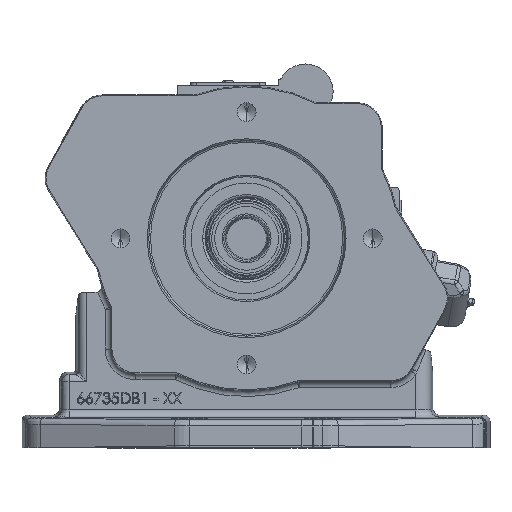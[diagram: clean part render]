
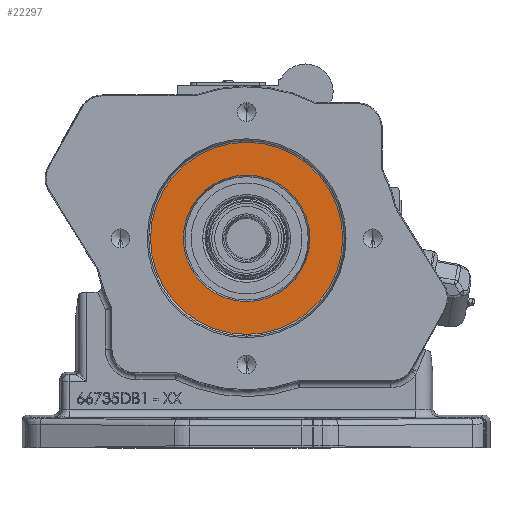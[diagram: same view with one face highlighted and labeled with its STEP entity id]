
A CAD part, top view. The second image highlights one B-rep face of the part: STEP entity #22297.
In plain terms, the highlighted planar face has unit normal (0, 0, 1) as drawn and (0, 0, -1) by its records, which use the part's own axes.
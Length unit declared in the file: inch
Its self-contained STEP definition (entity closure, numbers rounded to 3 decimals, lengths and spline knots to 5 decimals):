
#4095 = DIRECTION ( 'NONE',  ( 0., 0., -1. ) ) ;
#4808 = ORIENTED_EDGE ( 'NONE', *, *, #8241, .T. ) ;
#8241 = EDGE_CURVE ( 'NONE', #156380, #69478, #68675, .T. ) ;
#13184 = CARTESIAN_POINT ( 'NONE',  ( 3.4729, -3.5484, 0.0821 ) ) ;
#22297 = ADVANCED_FACE ( 'NONE', ( #157884, #93367 ), #145142, .F. ) ;
#32101 = DIRECTION ( 'NONE',  ( 1., 0., 0. ) ) ;
#33883 = VERTEX_POINT ( 'NONE', #135380 ) ;
#37213 = CARTESIAN_POINT ( 'NONE',  ( 5.0679, -3.5484, 0.0821 ) ) ;
#40030 = CARTESIAN_POINT ( 'NONE',  ( 4.52369, -3.5484, 0.0821 ) ) ;
#41253 = DIRECTION ( 'NONE',  ( 1., 0., 0. ) ) ;
#41991 = AXIS2_PLACEMENT_3D ( 'NONE', #46494, #4095, #32101 ) ;
#46494 = CARTESIAN_POINT ( 'NONE',  ( 3.4729, -3.5484, 0.0821 ) ) ;
#47942 = AXIS2_PLACEMENT_3D ( 'NONE', #126257, #83890, #99113 ) ;
#48431 = VERTEX_POINT ( 'NONE', #37213 ) ;
#58750 = CIRCLE ( 'NONE', #47942, 1.05079 ) ;
#63529 = EDGE_CURVE ( 'NONE', #33883, #48431, #90869, .T. ) ;
#68675 = CIRCLE ( 'NONE', #109670, 1.05079 ) ;
#69478 = VERTEX_POINT ( 'NONE', #40030 ) ;
#79474 = DIRECTION ( 'NONE',  ( 0., 0., 1. ) ) ;
#83270 = AXIS2_PLACEMENT_3D ( 'NONE', #132416, #79474, #41253 ) ;
#83890 = DIRECTION ( 'NONE',  ( 0., 0., 1. ) ) ;
#84382 = ORIENTED_EDGE ( 'NONE', *, *, #63529, .T. ) ;
#87312 = CARTESIAN_POINT ( 'NONE',  ( 3.4729, -3.5484, 0.0821 ) ) ;
#90467 = DIRECTION ( 'NONE',  ( 0., 0., 1. ) ) ;
#90869 = CIRCLE ( 'NONE', #41991, 1.595 ) ;
#93340 = ORIENTED_EDGE ( 'NONE', *, *, #149993, .T. ) ;
#93367 = FACE_OUTER_BOUND ( 'NONE', #143170, .T. ) ;
#93726 = EDGE_CURVE ( 'NONE', #69478, #156380, #58750, .T. ) ;
#99113 = DIRECTION ( 'NONE',  ( 1., 0., 0. ) ) ;
#109670 = AXIS2_PLACEMENT_3D ( 'NONE', #13184, #90467, #127834 ) ;
#112067 = CARTESIAN_POINT ( 'NONE',  ( 2.42211, -3.5484, 0.0821 ) ) ;
#125465 = EDGE_LOOP ( 'NONE', ( #4808, #159565 ) ) ;
#126257 = CARTESIAN_POINT ( 'NONE',  ( 3.4729, -3.5484, 0.0821 ) ) ;
#127228 = DIRECTION ( 'NONE',  ( 0., 0., -1. ) ) ;
#127834 = DIRECTION ( 'NONE',  ( 1., 0., 0. ) ) ;
#132416 = CARTESIAN_POINT ( 'NONE',  ( 4.4969, -3.5484, 0.0821 ) ) ;
#133494 = CIRCLE ( 'NONE', #146943, 1.595 ) ;
#135380 = CARTESIAN_POINT ( 'NONE',  ( 1.8779, -3.5484, 0.0821 ) ) ;
#143170 = EDGE_LOOP ( 'NONE', ( #93340, #84382 ) ) ;
#145142 = PLANE ( 'NONE',  #83270 ) ;
#146943 = AXIS2_PLACEMENT_3D ( 'NONE', #87312, #127228, #164616 ) ;
#149993 = EDGE_CURVE ( 'NONE', #48431, #33883, #133494, .T. ) ;
#156380 = VERTEX_POINT ( 'NONE', #112067 ) ;
#157884 = FACE_BOUND ( 'NONE', #125465, .T. ) ;
#159565 = ORIENTED_EDGE ( 'NONE', *, *, #93726, .T. ) ;
#164616 = DIRECTION ( 'NONE',  ( 1., 0., 0. ) ) ;
